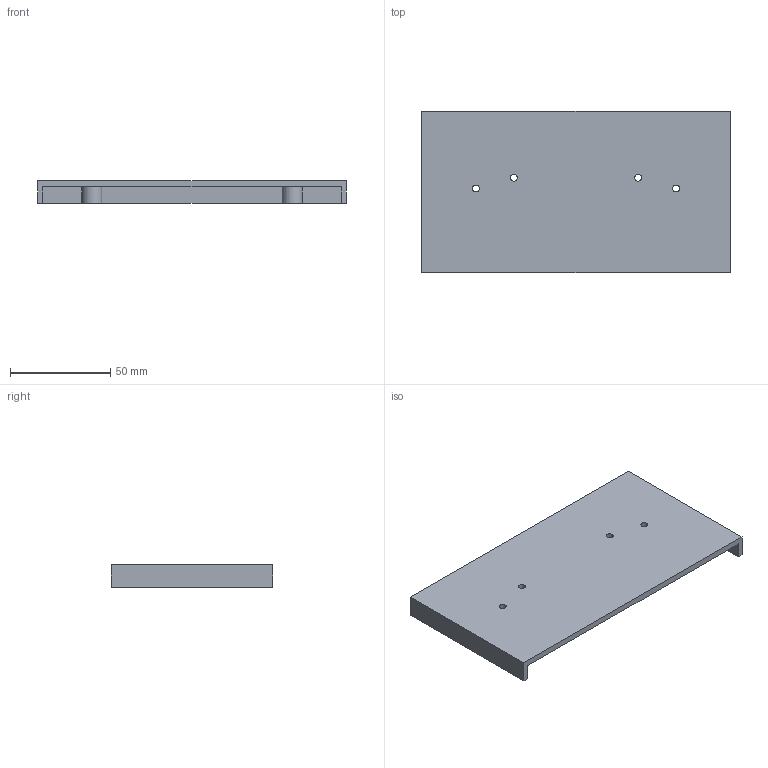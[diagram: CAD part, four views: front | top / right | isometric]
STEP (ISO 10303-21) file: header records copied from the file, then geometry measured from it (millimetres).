
FILE_DESCRIPTION(('Open CASCADE Model'),'2;1');
FILE_NAME('Open CASCADE Shape Model','2026-10-18T06:41:05',('Author'),( 'Open CASCADE'),'Open CASCADE STEP processor 7.9','Open CASCADE 7.9' ,'Unknown');
FILE_SCHEMA(('AUTOMOTIVE_DESIGN { 1 0 10303 214 1 1 1 1 }'));
Length unit declared in the file: millimetre
Products named in the file (1): Open CASCADE STEP translator 7.9 4
Bounding box: 154 x 80.5 x 11 mm (x, y, z)
Volume: 44393.4 mm3; surface area: 31930.1 mm2
Topology: 1 solids, 1 shells, 18 faces, 42 edges, 28 vertices
Faces by surface type: plane 12, cylinder 6
Full cylindrical faces by diameter (mm): 3.4 x4, 10 x2
Entity records: 1096 total; most frequent: CARTESIAN_POINT 185, DIRECTION 174, LINE 102, VECTOR 102, ORIENTED_EDGE 84, PCURVE 84, DEFINITIONAL_REPRESENTATION 84, EDGE_CURVE 42
